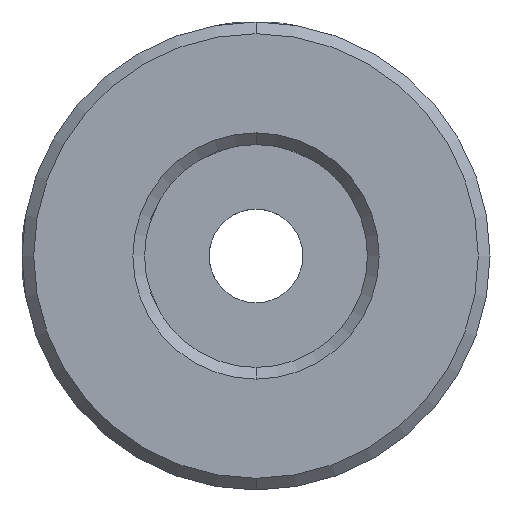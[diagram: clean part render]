
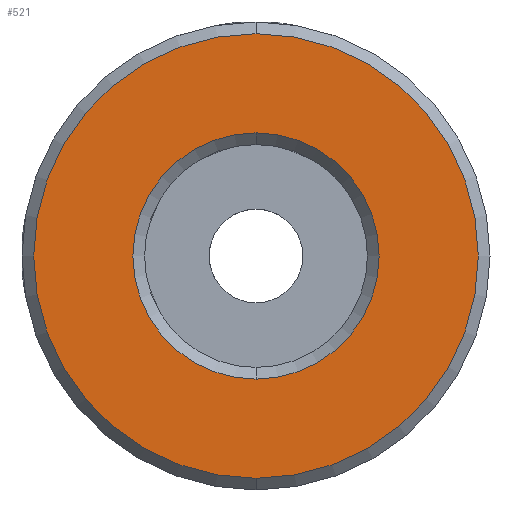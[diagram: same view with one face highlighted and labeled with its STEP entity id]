
A CAD part, front view. The second image highlights one B-rep face of the part: STEP entity #521.
In plain terms, the highlighted planar face has unit normal (0, -1, 0).
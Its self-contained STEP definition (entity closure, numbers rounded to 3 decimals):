
#24 = CARTESIAN_POINT ( 'NONE',  ( -10.188, -0.277, -9.454 ) ) ;
#79 = CARTESIAN_POINT ( 'NONE',  ( -10.188, -0.277, -5.217 ) ) ;
#122 = ORIENTED_EDGE ( 'NONE', *, *, #2574, .T. ) ;
#369 = DIRECTION ( 'NONE',  ( 0., 0., 1. ) ) ;
#422 = AXIS2_PLACEMENT_3D ( 'NONE', #3509, #957, #369 ) ;
#447 = ORIENTED_EDGE ( 'NONE', *, *, #3477, .T. ) ;
#521 = ADVANCED_FACE ( 'NONE', ( #2499, #1956 ), #3624, .F. ) ;
#541 = CIRCLE ( 'NONE', #422, 5.263 ) ;
#547 = CIRCLE ( 'NONE', #782, 5.263 ) ;
#559 = DIRECTION ( 'NONE',  ( 0., 0., 1. ) ) ;
#782 = AXIS2_PLACEMENT_3D ( 'NONE', #1788, #2125, #2925 ) ;
#826 = DIRECTION ( 'NONE',  ( 0., 0., 1. ) ) ;
#842 = VERTEX_POINT ( 'NONE', #2387 ) ;
#895 = VERTEX_POINT ( 'NONE', #3247 ) ;
#933 = AXIS2_PLACEMENT_3D ( 'NONE', #1083, #3096, #559 ) ;
#941 = ORIENTED_EDGE ( 'NONE', *, *, #1074, .T. ) ;
#957 = DIRECTION ( 'NONE',  ( 0., 1., 0. ) ) ;
#1037 = ORIENTED_EDGE ( 'NONE', *, *, #2342, .T. ) ;
#1074 = EDGE_CURVE ( 'NONE', #3455, #895, #541, .T. ) ;
#1083 = CARTESIAN_POINT ( 'NONE',  ( -10.188, -0.277, 0.046 ) ) ;
#1199 = DIRECTION ( 'NONE',  ( 0., -1., 0. ) ) ;
#1518 = EDGE_LOOP ( 'NONE', ( #941, #447 ) ) ;
#1682 = DIRECTION ( 'NONE',  ( 0., -1., 0. ) ) ;
#1772 = AXIS2_PLACEMENT_3D ( 'NONE', #3635, #1682, #826 ) ;
#1787 = DIRECTION ( 'NONE',  ( 0., 0., 1. ) ) ;
#1788 = CARTESIAN_POINT ( 'NONE',  ( -10.188, -0.277, 0.046 ) ) ;
#1956 = FACE_BOUND ( 'NONE', #1518, .T. ) ;
#2125 = DIRECTION ( 'NONE',  ( 0., 1., 0. ) ) ;
#2342 = EDGE_CURVE ( 'NONE', #3323, #842, #2839, .T. ) ;
#2387 = CARTESIAN_POINT ( 'NONE',  ( -10.188, -0.277, 9.546 ) ) ;
#2484 = AXIS2_PLACEMENT_3D ( 'NONE', #2614, #1199, #1787 ) ;
#2499 = FACE_OUTER_BOUND ( 'NONE', #2977, .T. ) ;
#2574 = EDGE_CURVE ( 'NONE', #842, #3323, #3377, .T. ) ;
#2614 = CARTESIAN_POINT ( 'NONE',  ( -10.188, -0.277, 0.046 ) ) ;
#2839 = CIRCLE ( 'NONE', #2484, 9.5 ) ;
#2925 = DIRECTION ( 'NONE',  ( 0., 0., 1. ) ) ;
#2977 = EDGE_LOOP ( 'NONE', ( #122, #1037 ) ) ;
#3096 = DIRECTION ( 'NONE',  ( 0., 1., 0. ) ) ;
#3247 = CARTESIAN_POINT ( 'NONE',  ( -10.188, -0.277, 5.308 ) ) ;
#3323 = VERTEX_POINT ( 'NONE', #24 ) ;
#3377 = CIRCLE ( 'NONE', #1772, 9.5 ) ;
#3455 = VERTEX_POINT ( 'NONE', #79 ) ;
#3477 = EDGE_CURVE ( 'NONE', #895, #3455, #547, .T. ) ;
#3509 = CARTESIAN_POINT ( 'NONE',  ( -10.188, -0.277, 0.046 ) ) ;
#3624 = PLANE ( 'NONE',  #933 ) ;
#3635 = CARTESIAN_POINT ( 'NONE',  ( -10.188, -0.277, 0.046 ) ) ;
